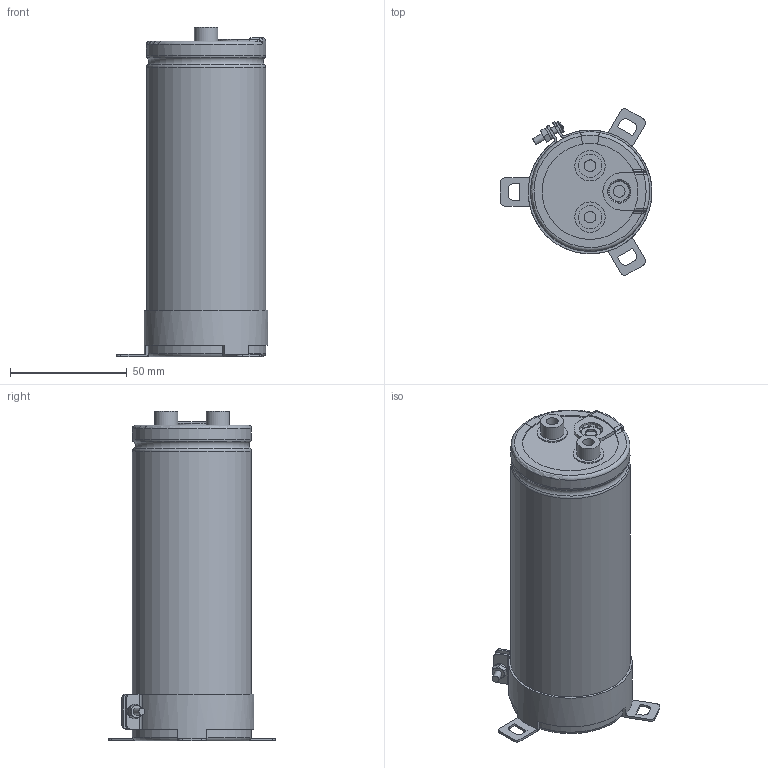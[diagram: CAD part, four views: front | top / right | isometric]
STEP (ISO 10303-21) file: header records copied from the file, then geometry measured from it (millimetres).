
FILE_DESCRIPTION(/* description */ (''),/* implementation_level */ '2;1');
FILE_NAME(/* name */ '51x135_Screw.stp',/* time_stamp */ '2017-09-15T14:00:17+09:00',/* author */ (''),/* organization */ (''),/* preprocessor_version */ 'ST-DEVELOPER v16',/* originating_system */ 'SIEMENS PLM Software NX 11.0',/* authorisation */ '');
FILE_SCHEMA (('AUTOMOTIVE_DESIGN { 1 0 10303 214 3 1 1 1 }'));
Length unit declared in the file: millimetre
Products named in the file (1): 51x135_Screw
Bounding box: 65 x 71.22 x 141 mm (x, y, z)
Volume: 277766.3 mm3; surface area: 78977.4 mm2
Topology: 9 solids, 9 shells, 298 faces, 744 edges, 471 vertices
Faces by surface type: plane 118, cylinder 78, torus 54, cone 31, bspline 12, sphere 5
Full cylindrical faces by diameter (mm): 3 x5, 5 x6, 5.5 x2, 10 x4, 13 x2, 49.8 x2
Entity records: 10562 total; most frequent: CARTESIAN_POINT 3129, DIRECTION 1450, ORIENTED_EDGE 1410, EDGE_CURVE 705, AXIS2_PLACEMENT_3D 606, VERTEX_POINT 464, EDGE_LOOP 353, CIRCLE 319
